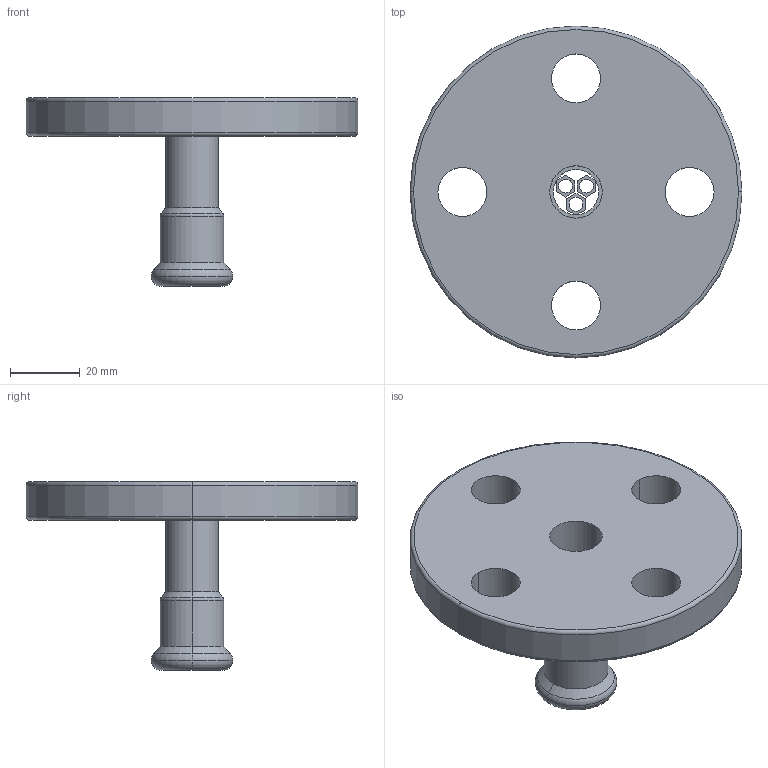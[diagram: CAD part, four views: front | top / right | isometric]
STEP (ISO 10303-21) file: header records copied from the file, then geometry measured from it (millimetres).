
FILE_DESCRIPTION(('OneSpaceDesigner STEP Export'),'2;1');
FILE_NAME('R2726 15.stp','2010-06-10T13:05:59',(''),(''),'OneSpace Designer STEP processor for AP214 (Solid Model)','OneSpace Modeling 15.00A 14-Mar-2007 (C) CoCreate Software GmbH','');
FILE_SCHEMA(('AUTOMOTIVE_DESIGN { 1 0 10303 214 1 1 1 1 }'));
Length unit declared in the file: millimetre
Products named in the file (2): R2726_15
Assembly tree (1 placements, depth 2):
  R2726_15
    R2726_15
Bounding box: 95 x 95 x 54 mm (x, y, z)
Volume: 72663.6 mm3; surface area: 22934.2 mm2
Topology: 2 solids, 2 shells, 78 faces, 189 edges, 120 vertices
Faces by surface type: plane 33, cylinder 31, torus 10, cone 4
Entity records: 2068 total; most frequent: ORIENTED_EDGE 382, CARTESIAN_POINT 327, DIRECTION 313, EDGE_CURVE 189, VERTEX_POINT 120, AXIS2_PLACEMENT_3D 106, VECTOR 101, LINE 101
